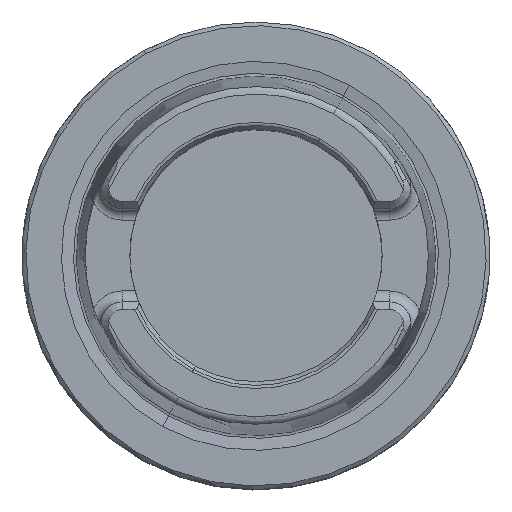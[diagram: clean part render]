
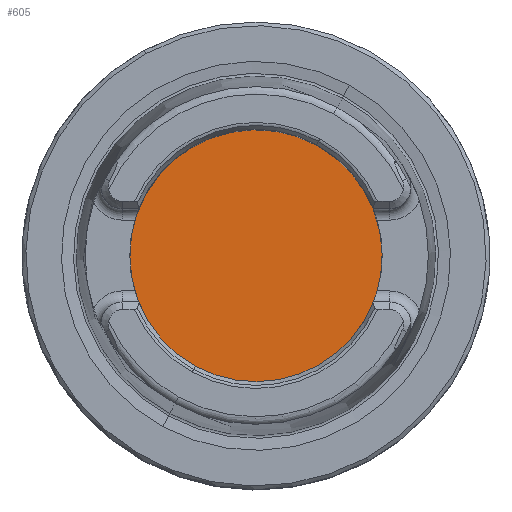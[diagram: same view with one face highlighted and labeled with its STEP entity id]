
A CAD part, top view. The second image highlights one B-rep face of the part: STEP entity #605.
In plain terms, the highlighted planar face has unit normal (0, 0, 1).
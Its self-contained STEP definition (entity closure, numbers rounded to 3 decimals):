
#173=AXIS2_PLACEMENT_3D('Circle Axis2P3D',#171,#172,$) ;
#392=AXIS2_PLACEMENT_3D('Circle Axis2P3D',#390,#391,$) ;
#599=AXIS2_PLACEMENT_3D('Plane Axis2P3D',#596,#597,#598) ;
#168=CARTESIAN_POINT('Vertex',(8.15,14.919,-10.)) ;
#171=CARTESIAN_POINT('Axis2P3D Location',(0.,0.,-10.)) ;
#175=CARTESIAN_POINT('Vertex',(-8.15,-14.919,-10.)) ;
#390=CARTESIAN_POINT('Axis2P3D Location',(0.,0.,-10.)) ;
#596=CARTESIAN_POINT('Axis2P3D Location',(0.,-15.75,-10.)) ;
#172=DIRECTION('Axis2P3D Direction',(0.,0.,-1.)) ;
#391=DIRECTION('Axis2P3D Direction',(0.,0.,-1.)) ;
#597=DIRECTION('Axis2P3D Direction',(0.,0.,-1.)) ;
#598=DIRECTION('Axis2P3D XDirection',(-1.,0.,0.)) ;
#602=ORIENTED_EDGE('',*,*,#394,.F.) ;
#603=ORIENTED_EDGE('',*,*,#177,.F.) ;
#605=ADVANCED_FACE('NO_CUT',(#604),#600,.F.) ;
#174=CIRCLE('generated circle',#173,17.) ;
#393=CIRCLE('generated circle',#392,17.) ;
#177=EDGE_CURVE('',#169,#176,#174,.T.) ;
#394=EDGE_CURVE('',#176,#169,#393,.T.) ;
#601=EDGE_LOOP('',(#602,#603)) ;
#604=FACE_OUTER_BOUND('',#601,.T.) ;
#600=PLANE('',#599) ;
#169=VERTEX_POINT('',#168) ;
#176=VERTEX_POINT('',#175) ;
